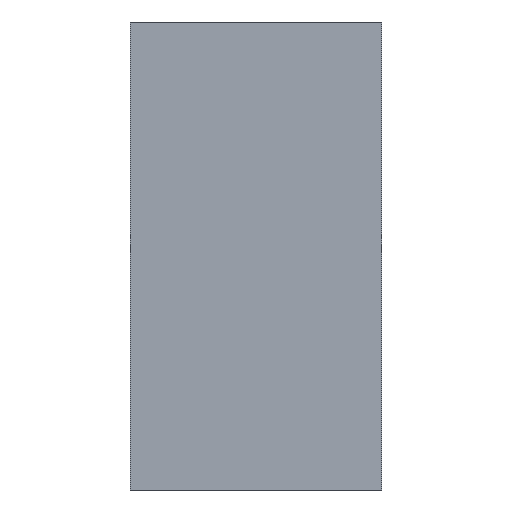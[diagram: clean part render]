
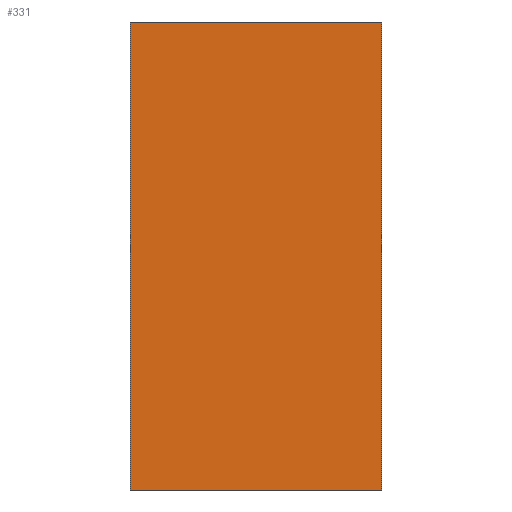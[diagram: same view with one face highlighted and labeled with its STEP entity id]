
A CAD part, front view. The second image highlights one B-rep face of the part: STEP entity #331.
In plain terms, the highlighted planar face has unit normal (0, -1, 0).
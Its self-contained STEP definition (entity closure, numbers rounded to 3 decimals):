
#22 = VERTEX_POINT('',#23);
#23 = CARTESIAN_POINT('',(60.,210.,-186.));
#32 = PLANE('',#33);
#33 = AXIS2_PLACEMENT_3D('',#34,#35,#36);
#34 = CARTESIAN_POINT('',(60.,210.,-186.));
#35 = DIRECTION('',(1.,0.,0.));
#36 = DIRECTION('',(0.,0.,1.));
#44 = PLANE('',#45);
#45 = AXIS2_PLACEMENT_3D('',#46,#47,#48);
#46 = CARTESIAN_POINT('',(260.,210.,-186.));
#47 = DIRECTION('',(0.,-0.,1.));
#48 = DIRECTION('',(-1.,0.,0.));
#85 = VERTEX_POINT('',#86);
#86 = CARTESIAN_POINT('',(60.,210.,186.));
#100 = PLANE('',#101);
#101 = AXIS2_PLACEMENT_3D('',#102,#103,#104);
#102 = CARTESIAN_POINT('',(60.,210.,186.));
#103 = DIRECTION('',(0.,0.,-1.));
#104 = DIRECTION('',(1.,0.,0.));
#112 = EDGE_CURVE('',#22,#85,#113,.T.);
#113 = SURFACE_CURVE('',#114,(#118,#125),.PCURVE_S1.);
#114 = LINE('',#115,#116);
#115 = CARTESIAN_POINT('',(60.,210.,-186.));
#116 = VECTOR('',#117,1.);
#117 = DIRECTION('',(0.,0.,1.));
#118 = PCURVE('',#32,#119);
#119 = DEFINITIONAL_REPRESENTATION('',(#120),#124);
#120 = LINE('',#121,#122);
#121 = CARTESIAN_POINT('',(0.,0.));
#122 = VECTOR('',#123,1.);
#123 = DIRECTION('',(1.,0.));
#124 = ( GEOMETRIC_REPRESENTATION_CONTEXT(2) 
PARAMETRIC_REPRESENTATION_CONTEXT() REPRESENTATION_CONTEXT('2D SPACE',''
  ) );
#125 = PCURVE('',#126,#131);
#126 = PLANE('',#127);
#127 = AXIS2_PLACEMENT_3D('',#128,#129,#130);
#128 = CARTESIAN_POINT('',(160.,210.,0.));
#129 = DIRECTION('',(0.,1.,0.));
#130 = DIRECTION('',(0.,-0.,1.));
#131 = DEFINITIONAL_REPRESENTATION('',(#132),#136);
#132 = LINE('',#133,#134);
#133 = CARTESIAN_POINT('',(-186.,-100.));
#134 = VECTOR('',#135,1.);
#135 = DIRECTION('',(1.,0.));
#136 = ( GEOMETRIC_REPRESENTATION_CONTEXT(2) 
PARAMETRIC_REPRESENTATION_CONTEXT() REPRESENTATION_CONTEXT('2D SPACE',''
  ) );
#166 = VERTEX_POINT('',#167);
#167 = CARTESIAN_POINT('',(260.,210.,186.));
#181 = PLANE('',#182);
#182 = AXIS2_PLACEMENT_3D('',#183,#184,#185);
#183 = CARTESIAN_POINT('',(260.,210.,186.));
#184 = DIRECTION('',(-1.,0.,0.));
#185 = DIRECTION('',(0.,0.,-1.));
#193 = EDGE_CURVE('',#85,#166,#194,.T.);
#194 = SURFACE_CURVE('',#195,(#199,#206),.PCURVE_S1.);
#195 = LINE('',#196,#197);
#196 = CARTESIAN_POINT('',(60.,210.,186.));
#197 = VECTOR('',#198,1.);
#198 = DIRECTION('',(1.,0.,0.));
#199 = PCURVE('',#100,#200);
#200 = DEFINITIONAL_REPRESENTATION('',(#201),#205);
#201 = LINE('',#202,#203);
#202 = CARTESIAN_POINT('',(0.,0.));
#203 = VECTOR('',#204,1.);
#204 = DIRECTION('',(1.,0.));
#205 = ( GEOMETRIC_REPRESENTATION_CONTEXT(2) 
PARAMETRIC_REPRESENTATION_CONTEXT() REPRESENTATION_CONTEXT('2D SPACE',''
  ) );
#206 = PCURVE('',#126,#207);
#207 = DEFINITIONAL_REPRESENTATION('',(#208),#212);
#208 = LINE('',#209,#210);
#209 = CARTESIAN_POINT('',(186.,-100.));
#210 = VECTOR('',#211,1.);
#211 = DIRECTION('',(0.,1.));
#212 = ( GEOMETRIC_REPRESENTATION_CONTEXT(2) 
PARAMETRIC_REPRESENTATION_CONTEXT() REPRESENTATION_CONTEXT('2D SPACE',''
  ) );
#242 = VERTEX_POINT('',#243);
#243 = CARTESIAN_POINT('',(260.,210.,-186.));
#264 = EDGE_CURVE('',#166,#242,#265,.T.);
#265 = SURFACE_CURVE('',#266,(#270,#277),.PCURVE_S1.);
#266 = LINE('',#267,#268);
#267 = CARTESIAN_POINT('',(260.,210.,186.));
#268 = VECTOR('',#269,1.);
#269 = DIRECTION('',(0.,0.,-1.));
#270 = PCURVE('',#181,#271);
#271 = DEFINITIONAL_REPRESENTATION('',(#272),#276);
#272 = LINE('',#273,#274);
#273 = CARTESIAN_POINT('',(0.,-0.));
#274 = VECTOR('',#275,1.);
#275 = DIRECTION('',(1.,0.));
#276 = ( GEOMETRIC_REPRESENTATION_CONTEXT(2) 
PARAMETRIC_REPRESENTATION_CONTEXT() REPRESENTATION_CONTEXT('2D SPACE',''
  ) );
#277 = PCURVE('',#126,#278);
#278 = DEFINITIONAL_REPRESENTATION('',(#279),#283);
#279 = LINE('',#280,#281);
#280 = CARTESIAN_POINT('',(186.,100.));
#281 = VECTOR('',#282,1.);
#282 = DIRECTION('',(-1.,0.));
#283 = ( GEOMETRIC_REPRESENTATION_CONTEXT(2) 
PARAMETRIC_REPRESENTATION_CONTEXT() REPRESENTATION_CONTEXT('2D SPACE',''
  ) );
#311 = EDGE_CURVE('',#242,#22,#312,.T.);
#312 = SURFACE_CURVE('',#313,(#317,#324),.PCURVE_S1.);
#313 = LINE('',#314,#315);
#314 = CARTESIAN_POINT('',(260.,210.,-186.));
#315 = VECTOR('',#316,1.);
#316 = DIRECTION('',(-1.,0.,0.));
#317 = PCURVE('',#44,#318);
#318 = DEFINITIONAL_REPRESENTATION('',(#319),#323);
#319 = LINE('',#320,#321);
#320 = CARTESIAN_POINT('',(0.,0.));
#321 = VECTOR('',#322,1.);
#322 = DIRECTION('',(1.,0.));
#323 = ( GEOMETRIC_REPRESENTATION_CONTEXT(2) 
PARAMETRIC_REPRESENTATION_CONTEXT() REPRESENTATION_CONTEXT('2D SPACE',''
  ) );
#324 = PCURVE('',#126,#325);
#325 = DEFINITIONAL_REPRESENTATION('',(#326),#330);
#326 = LINE('',#327,#328);
#327 = CARTESIAN_POINT('',(-186.,100.));
#328 = VECTOR('',#329,1.);
#329 = DIRECTION('',(0.,-1.));
#330 = ( GEOMETRIC_REPRESENTATION_CONTEXT(2) 
PARAMETRIC_REPRESENTATION_CONTEXT() REPRESENTATION_CONTEXT('2D SPACE',''
  ) );
#331 = ADVANCED_FACE('',(#332),#126,.F.);
#332 = FACE_BOUND('',#333,.F.);
#333 = EDGE_LOOP('',(#334,#335,#336,#337));
#334 = ORIENTED_EDGE('',*,*,#112,.T.);
#335 = ORIENTED_EDGE('',*,*,#193,.T.);
#336 = ORIENTED_EDGE('',*,*,#264,.T.);
#337 = ORIENTED_EDGE('',*,*,#311,.T.);
